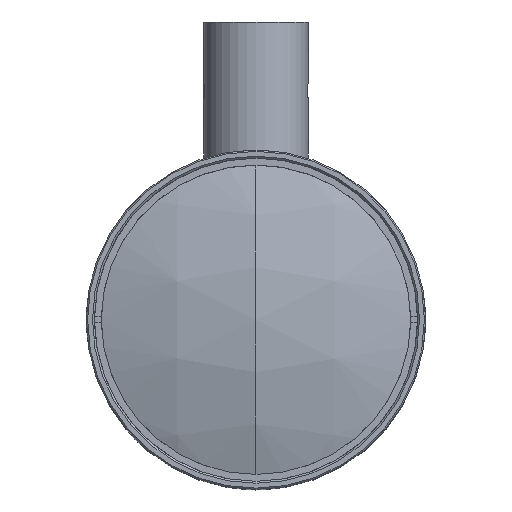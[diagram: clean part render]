
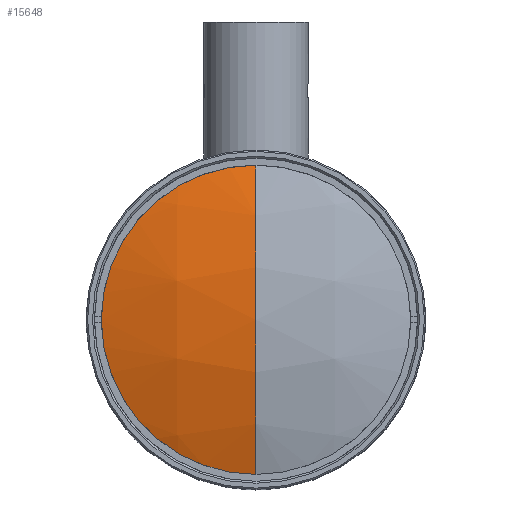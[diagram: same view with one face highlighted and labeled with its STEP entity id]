
A CAD part, top view. The second image highlights one B-rep face of the part: STEP entity #15648.
In plain terms, the highlighted spherical face has radius 71 mm.
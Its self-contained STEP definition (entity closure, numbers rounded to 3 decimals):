
#790 = EDGE_CURVE ( 'NONE', #4241, #3551, #12928, .T. ) ;
#2447 = EDGE_CURVE ( 'NONE', #4241, #3471, #9127, .T. ) ;
#3471 = VERTEX_POINT ( 'NONE', #17879 ) ;
#3551 = VERTEX_POINT ( 'NONE', #7372 ) ;
#3799 = DIRECTION ( 'NONE',  ( 0., 0., 1. ) ) ;
#4158 = CARTESIAN_POINT ( 'NONE',  ( 0., 0., 95.42 ) ) ;
#4241 = VERTEX_POINT ( 'NONE', #7290 ) ;
#4578 = ORIENTED_EDGE ( 'NONE', *, *, #4707, .T. ) ;
#4707 = EDGE_CURVE ( 'NONE', #3551, #3471, #22941, .T. ) ;
#5030 = AXIS2_PLACEMENT_3D ( 'NONE', #33253, #13857, #14588 ) ;
#6947 = SPHERICAL_SURFACE ( 'NONE', #22750, 71. ) ;
#7290 = CARTESIAN_POINT ( 'NONE',  ( 0., 23.723, 95.42 ) ) ;
#7372 = CARTESIAN_POINT ( 'NONE',  ( 0., -23.723, 95.42 ) ) ;
#9127 = CIRCLE ( 'NONE', #13746, 71. ) ;
#10082 = DIRECTION ( 'NONE',  ( 0., 0., -1. ) ) ;
#12710 = DIRECTION ( 'NONE',  ( 0., 1., 0. ) ) ;
#12928 = CIRCLE ( 'NONE', #29707, 23.723 ) ;
#13746 = AXIS2_PLACEMENT_3D ( 'NONE', #32166, #35399, #10082 ) ;
#13857 = DIRECTION ( 'NONE',  ( -1., 0., 0. ) ) ;
#14588 = DIRECTION ( 'NONE',  ( 0., -1., 0. ) ) ;
#15648 = ADVANCED_FACE ( 'NONE', ( #33390 ), #6947, .T. ) ;
#17879 = CARTESIAN_POINT ( 'NONE',  ( 0., 0., 99.5 ) ) ;
#18956 = EDGE_LOOP ( 'NONE', ( #22161, #4578, #21009 ) ) ;
#20264 = DIRECTION ( 'NONE',  ( 0., 1., 0. ) ) ;
#21009 = ORIENTED_EDGE ( 'NONE', *, *, #2447, .F. ) ;
#22161 = ORIENTED_EDGE ( 'NONE', *, *, #790, .T. ) ;
#22750 = AXIS2_PLACEMENT_3D ( 'NONE', #29389, #32110, #12710 ) ;
#22941 = CIRCLE ( 'NONE', #5030, 71. ) ;
#29389 = CARTESIAN_POINT ( 'NONE',  ( 0., 0., 28.5 ) ) ;
#29707 = AXIS2_PLACEMENT_3D ( 'NONE', #4158, #3799, #20264 ) ;
#32110 = DIRECTION ( 'NONE',  ( -1., 0., 0. ) ) ;
#32166 = CARTESIAN_POINT ( 'NONE',  ( 0., 0., 28.5 ) ) ;
#33253 = CARTESIAN_POINT ( 'NONE',  ( 0., 0., 28.5 ) ) ;
#33390 = FACE_OUTER_BOUND ( 'NONE', #18956, .T. ) ;
#35399 = DIRECTION ( 'NONE',  ( 1., 0., 0. ) ) ;
